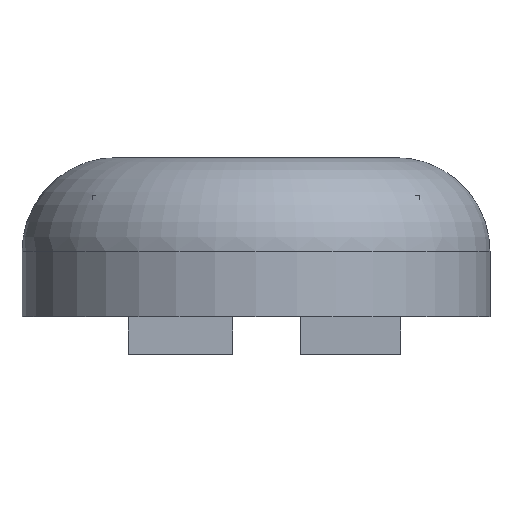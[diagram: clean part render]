
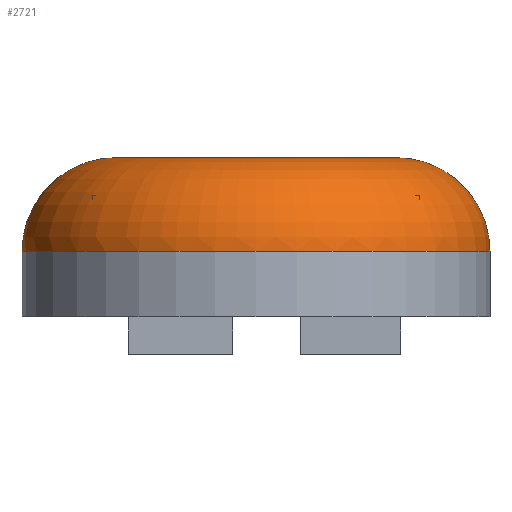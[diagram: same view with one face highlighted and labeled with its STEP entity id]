
A CAD part, left-side view. The second image highlights one B-rep face of the part: STEP entity #2721.
In plain terms, the highlighted toroidal (fillet/blend) face has major radius 15 mm and minor radius 10 mm.
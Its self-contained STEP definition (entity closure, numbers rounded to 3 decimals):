
#749=FACE_BOUND('',#942,.T.);
#750=FACE_BOUND('',#943,.T.);
#764=B_SPLINE_CURVE_WITH_KNOTS('',3,(#4109,#4110,#4111,#4112,#4113,#4114,
#4115,#4116,#4117,#4118,#4119,#4120),.UNSPECIFIED.,.F.,.F.,(4,2,2,2,2,4),
(-3.15,-3.147,-2.745,-2.354,
-1.964,-1.573),.UNSPECIFIED.);
#765=B_SPLINE_CURVE_WITH_KNOTS('',3,(#4123,#4124,#4125,#4126,#4127,#4128,
#4129,#4130,#4131,#4132,#4133,#4134),.UNSPECIFIED.,.F.,.F.,(4,2,2,2,2,4),
(-1.573,-1.183,-0.793,-0.402,
0.,0.004),.UNSPECIFIED.);
#766=B_SPLINE_CURVE_WITH_KNOTS('',3,(#4139,#4140,#4141,#4142),
 .UNSPECIFIED.,.F.,.F.,(4,4),(5.752,5.761),
 .UNSPECIFIED.);
#767=B_SPLINE_CURVE_WITH_KNOTS('',3,(#4143,#4144,#4145,#4146),
 .UNSPECIFIED.,.F.,.F.,(4,4),(2.992,3.),
 .UNSPECIFIED.);
#768=B_SPLINE_CURVE_WITH_KNOTS('',3,(#4151,#4152,#4153,#4154),
 .UNSPECIFIED.,.F.,.F.,(4,4),(6.475,6.483),
 .UNSPECIFIED.);
#769=B_SPLINE_CURVE_WITH_KNOTS('',3,(#4155,#4156,#4157,#4158),
 .UNSPECIFIED.,.F.,.F.,(4,4),(2.777,2.786),
 .UNSPECIFIED.);
#780=TOROIDAL_SURFACE('',#2903,15.,10.);
#786=FACE_OUTER_BOUND('',#941,.T.);
#941=EDGE_LOOP('',(#1905,#1906,#1907,#1908));
#942=EDGE_LOOP('',(#1909,#1910,#1911));
#943=EDGE_LOOP('',(#1912,#1913,#1914));
#1111=CIRCLE('',#2904,15.);
#1112=CIRCLE('',#2905,25.);
#1113=CIRCLE('',#2906,23.);
#1114=CIRCLE('',#2907,23.);
#1231=VERTEX_POINT('',#4105);
#1232=VERTEX_POINT('',#4106);
#1233=VERTEX_POINT('',#4108);
#1234=VERTEX_POINT('',#4121);
#1235=VERTEX_POINT('',#4135);
#1236=VERTEX_POINT('',#4136);
#1237=VERTEX_POINT('',#4138);
#1238=VERTEX_POINT('',#4147);
#1239=VERTEX_POINT('',#4148);
#1240=VERTEX_POINT('',#4150);
#1496=EDGE_CURVE('',#1231,#1232,#1111,.T.);
#1497=EDGE_CURVE('',#1232,#1233,#764,.T.);
#1498=EDGE_CURVE('',#1233,#1234,#1112,.T.);
#1499=EDGE_CURVE('',#1234,#1231,#765,.T.);
#1500=EDGE_CURVE('',#1235,#1236,#1113,.T.);
#1501=EDGE_CURVE('',#1236,#1237,#766,.T.);
#1502=EDGE_CURVE('',#1237,#1235,#767,.T.);
#1503=EDGE_CURVE('',#1238,#1239,#1114,.T.);
#1504=EDGE_CURVE('',#1239,#1240,#768,.T.);
#1505=EDGE_CURVE('',#1240,#1238,#769,.T.);
#1905=ORIENTED_EDGE('',*,*,#1496,.T.);
#1906=ORIENTED_EDGE('',*,*,#1497,.T.);
#1907=ORIENTED_EDGE('',*,*,#1498,.T.);
#1908=ORIENTED_EDGE('',*,*,#1499,.T.);
#1909=ORIENTED_EDGE('',*,*,#1500,.T.);
#1910=ORIENTED_EDGE('',*,*,#1501,.T.);
#1911=ORIENTED_EDGE('',*,*,#1502,.T.);
#1912=ORIENTED_EDGE('',*,*,#1503,.T.);
#1913=ORIENTED_EDGE('',*,*,#1504,.T.);
#1914=ORIENTED_EDGE('',*,*,#1505,.T.);
#2721=ADVANCED_FACE('',(#786,#749,#750),#780,.T.);
#2903=AXIS2_PLACEMENT_3D('',#4104,#3191,#3192);
#2904=AXIS2_PLACEMENT_3D('',#4107,#3193,#3194);
#2905=AXIS2_PLACEMENT_3D('',#4122,#3195,#3196);
#2906=AXIS2_PLACEMENT_3D('',#4137,#3197,#3198);
#2907=AXIS2_PLACEMENT_3D('',#4149,#3199,#3200);
#3191=DIRECTION('center_axis',(0.,0.,1.));
#3192=DIRECTION('ref_axis',(-1.,0.,0.));
#3193=DIRECTION('center_axis',(0.,0.,-1.));
#3194=DIRECTION('ref_axis',(-1.,0.,0.));
#3195=DIRECTION('center_axis',(0.,0.,1.));
#3196=DIRECTION('ref_axis',(-1.,0.,0.));
#3197=DIRECTION('center_axis',(0.,0.,1.));
#3198=DIRECTION('ref_axis',(1.,0.,0.));
#3199=DIRECTION('center_axis',(0.,0.,1.));
#3200=DIRECTION('ref_axis',(1.,0.,0.));
#4104=CARTESIAN_POINT('Origin',(-45.,0.,-6.));
#4105=CARTESIAN_POINT('',(-42.021,-14.701,4.));
#4106=CARTESIAN_POINT('',(-42.021,14.701,4.));
#4107=CARTESIAN_POINT('Origin',(-45.,0.,4.));
#4108=CARTESIAN_POINT('',(-40.659,24.62,-6.));
#4109=CARTESIAN_POINT('Ctrl Pts',(-42.021,14.701,4.));
#4110=CARTESIAN_POINT('Ctrl Pts',(-42.019,14.713,4.));
#4111=CARTESIAN_POINT('Ctrl Pts',(-42.017,14.724,4.));
#4112=CARTESIAN_POINT('Ctrl Pts',(-41.824,16.061,3.995));
#4113=CARTESIAN_POINT('Ctrl Pts',(-41.64,17.373,3.723));
#4114=CARTESIAN_POINT('Ctrl Pts',(-41.307,19.78,2.687));
#4115=CARTESIAN_POINT('Ctrl Pts',(-41.161,20.858,1.947));
#4116=CARTESIAN_POINT('Ctrl Pts',(-40.917,22.671,0.093));
#4117=CARTESIAN_POINT('Ctrl Pts',(-40.821,23.389,-1.003));
#4118=CARTESIAN_POINT('Ctrl Pts',(-40.692,24.368,-3.411));
#4119=CARTESIAN_POINT('Ctrl Pts',(-40.659,24.62,-4.699));
#4120=CARTESIAN_POINT('Ctrl Pts',(-40.659,24.62,-6.));
#4121=CARTESIAN_POINT('',(-40.659,-24.62,-6.));
#4122=CARTESIAN_POINT('Origin',(-45.,0.,-6.));
#4123=CARTESIAN_POINT('Ctrl Pts',(-40.659,-24.62,-6.));
#4124=CARTESIAN_POINT('Ctrl Pts',(-40.659,-24.62,-4.699));
#4125=CARTESIAN_POINT('Ctrl Pts',(-40.692,-24.368,-3.411));
#4126=CARTESIAN_POINT('Ctrl Pts',(-40.821,-23.389,-1.003));
#4127=CARTESIAN_POINT('Ctrl Pts',(-40.917,-22.671,0.093));
#4128=CARTESIAN_POINT('Ctrl Pts',(-41.161,-20.858,1.947));
#4129=CARTESIAN_POINT('Ctrl Pts',(-41.307,-19.78,2.687));
#4130=CARTESIAN_POINT('Ctrl Pts',(-41.64,-17.373,3.723));
#4131=CARTESIAN_POINT('Ctrl Pts',(-41.824,-16.061,3.995));
#4132=CARTESIAN_POINT('Ctrl Pts',(-42.017,-14.724,4.));
#4133=CARTESIAN_POINT('Ctrl Pts',(-42.019,-14.713,4.));
#4134=CARTESIAN_POINT('Ctrl Pts',(-42.021,-14.701,4.));
#4135=CARTESIAN_POINT('',(-60.,-17.436,0.));
#4136=CARTESIAN_POINT('',(-59.925,-17.5,0.));
#4137=CARTESIAN_POINT('Origin',(-45.,0.,0.));
#4138=CARTESIAN_POINT('',(-60.,-17.5,-0.066));
#4139=CARTESIAN_POINT('Ctrl Pts',(-59.925,-17.5,0.));
#4140=CARTESIAN_POINT('Ctrl Pts',(-59.95,-17.5,-0.022));
#4141=CARTESIAN_POINT('Ctrl Pts',(-59.975,-17.5,-0.044));
#4142=CARTESIAN_POINT('Ctrl Pts',(-60.,-17.5,-0.066));
#4143=CARTESIAN_POINT('Ctrl Pts',(-60.,-17.5,-0.066));
#4144=CARTESIAN_POINT('Ctrl Pts',(-60.,-17.479,-0.044));
#4145=CARTESIAN_POINT('Ctrl Pts',(-60.,-17.457,-0.022));
#4146=CARTESIAN_POINT('Ctrl Pts',(-60.,-17.436,0.));
#4147=CARTESIAN_POINT('',(-59.925,17.5,0.));
#4148=CARTESIAN_POINT('',(-60.,17.436,0.));
#4149=CARTESIAN_POINT('Origin',(-45.,0.,0.));
#4150=CARTESIAN_POINT('',(-60.,17.5,-0.066));
#4151=CARTESIAN_POINT('Ctrl Pts',(-60.,17.436,0.));
#4152=CARTESIAN_POINT('Ctrl Pts',(-60.,17.457,-0.022));
#4153=CARTESIAN_POINT('Ctrl Pts',(-60.,17.479,-0.044));
#4154=CARTESIAN_POINT('Ctrl Pts',(-60.,17.5,-0.066));
#4155=CARTESIAN_POINT('Ctrl Pts',(-60.,17.5,-0.066));
#4156=CARTESIAN_POINT('Ctrl Pts',(-59.975,17.5,-0.044));
#4157=CARTESIAN_POINT('Ctrl Pts',(-59.95,17.5,-0.022));
#4158=CARTESIAN_POINT('Ctrl Pts',(-59.925,17.5,0.));
